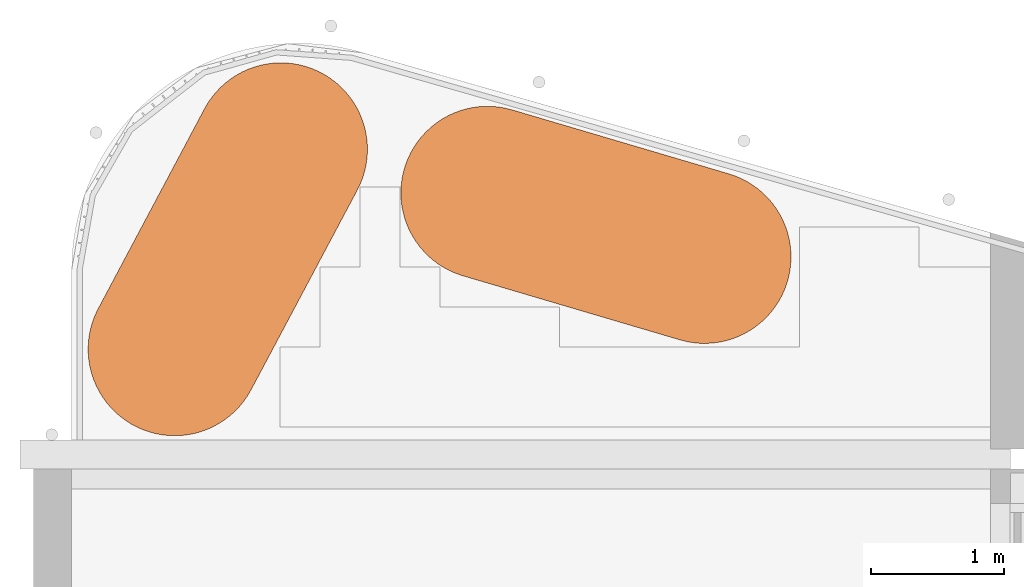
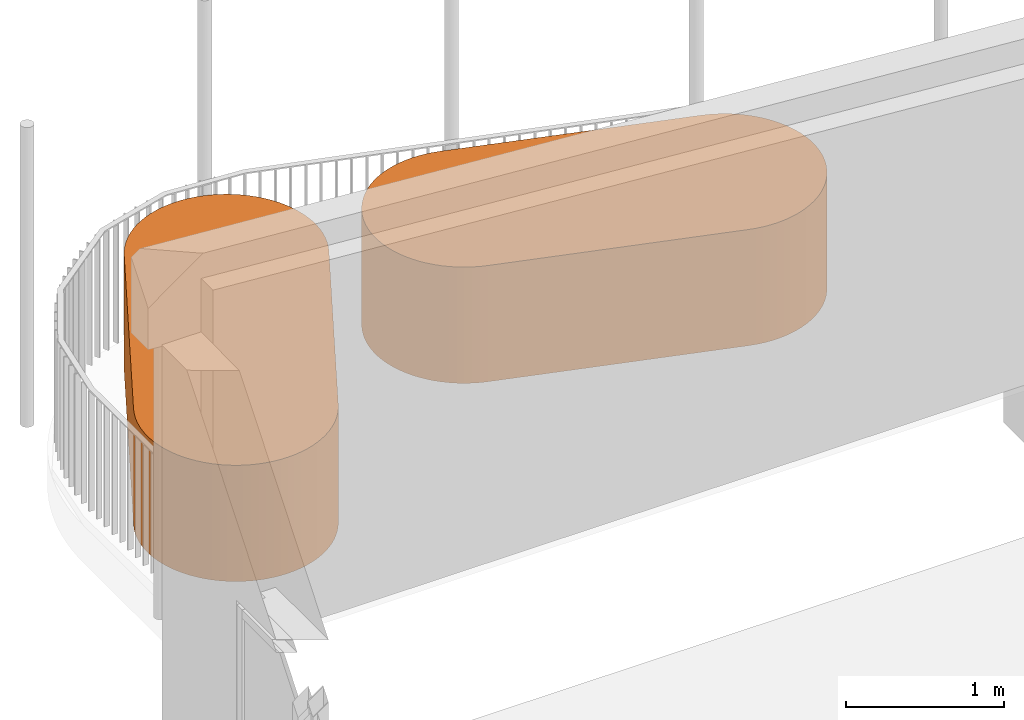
# One storey, part 9 of 9: 2 proxies.
"""IFC2X3 building model written with IfcOpenShell, lengths in millimetres."""

from ifc_helpers import new_model, entity, si_unit, converted_unit, derived_unit, direction, frame, frame_2d, origin, place, context, subcontext, project, spatial, polyline, circle_curve, parameter, trimmed, segment, composite_curve, outline, extrude, source, transform, mapped, material, type_object, type_shapes, element, save


model = new_model("IFC2X3")

# Units and contexts
model_context = context("Model", 3, precision=0.01, world=origin(), true_north=direction((6.12303176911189e-17, 1.0)))
body_context = subcontext(model_context, "Body", "Model", "MODEL_VIEW")
ifc_project = project(units=[si_unit("LENGTHUNIT", "METRE", prefix="MILLI"), si_unit("AREAUNIT", "SQUARE_METRE"), si_unit("VOLUMEUNIT", "CUBIC_METRE"), converted_unit("PLANEANGLEUNIT", "DEGREE", entity("IfcRatioMeasure", 0.0174532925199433), si_unit("PLANEANGLEUNIT", "RADIAN"), dimensions=[0, 0, 0, 0, 0, 0, 0]), si_unit("MASSUNIT", "GRAM", prefix="KILO"), derived_unit("MASSDENSITYUNIT", [(si_unit("MASSUNIT", "GRAM", prefix="KILO"), 1), (si_unit("LENGTHUNIT", "METRE"), -3)]), si_unit("TIMEUNIT", "SECOND"), si_unit("FREQUENCYUNIT", "HERTZ"), si_unit("THERMODYNAMICTEMPERATUREUNIT", "DEGREE_CELSIUS"), derived_unit("THERMALTRANSMITTANCEUNIT", [(si_unit("MASSUNIT", "GRAM", prefix="KILO"), 1), (si_unit("THERMODYNAMICTEMPERATUREUNIT", "KELVIN"), -1), (si_unit("TIMEUNIT", "SECOND"), -3)]), derived_unit("VOLUMETRICFLOWRATEUNIT", [(si_unit("LENGTHUNIT", "METRE"), 3), (si_unit("TIMEUNIT", "SECOND"), -1)]), si_unit("ELECTRICCURRENTUNIT", "AMPERE"), si_unit("ELECTRICVOLTAGEUNIT", "VOLT"), si_unit("POWERUNIT", "WATT"), si_unit("FORCEUNIT", "NEWTON", prefix="KILO"), si_unit("ILLUMINANCEUNIT", "LUX"), si_unit("LUMINOUSFLUXUNIT", "LUMEN"), si_unit("LUMINOUSINTENSITYUNIT", "CANDELA"), derived_unit("USERDEFINED", [(si_unit("MASSUNIT", "GRAM", prefix="KILO"), -1), (si_unit("LENGTHUNIT", "METRE"), -2), (si_unit("TIMEUNIT", "SECOND"), 3), (si_unit("LUMINOUSFLUXUNIT", "LUMEN"), 1)]), derived_unit("LINEARVELOCITYUNIT", [(si_unit("LENGTHUNIT", "METRE"), 1), (si_unit("TIMEUNIT", "SECOND"), -1)]), si_unit("PRESSUREUNIT", "PASCAL"), derived_unit("USERDEFINED", [(si_unit("LENGTHUNIT", "METRE"), -2), (si_unit("MASSUNIT", "GRAM", prefix="KILO"), 1), (si_unit("TIMEUNIT", "SECOND"), -2)])], contexts=[model_context])

# Site, building, storey
site_placement = place(None, origin())
site = spatial("IfcSite", under=ifc_project, at=site_placement, Name="<Kadaster Gemeente>;<Kadaster nummer>;<Kadaster sectie>", CompositionType="ELEMENT")
building_placement = place(site_placement, origin())
building = spatial("IfcBuilding", under=site, at=building_placement, Name="JRCZ Middelburg", CompositionType="ELEMENT")
storey_placement = place(building_placement, frame((0.0, 0.0, 3700.0)))
storey = spatial("IfcBuildingStorey", under=building, at=storey_placement, Name="02 tweede verdieping", CompositionType="ELEMENT", Elevation=3700.0)

# Proxies
ifc_material = material(Name="Default wit")
building_element_proxy_type_1 = type_object("IfcBuildingElementProxyType", Name="waterbak", PredefinedType="NOTDEFINED", material=ifc_material)
shared_shape_1 = source(origin(), body_context, "Body", "SweptSolid", [
    extrude(outline(composite_curve([segment(polyline([(-850.0, -650.0), (850.0, -650.0)]), True, "CONTINUOUS"), segment(trimmed(circle_curve(frame_2d((850.0, 0.0), x_axis=(1.0, 0.0)), 650.0), [parameter(270.0)], [parameter(90.0000000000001)], True, "PARAMETER"), True, "CONTINUOUS"), segment(polyline([(850.0, 650.0), (-850.0, 650.0)]), True, "CONTINUOUS"), segment(trimmed(circle_curve(frame_2d((-850.0, 0.0), x_axis=(-1.0, 0.0)), 650.0), [parameter(270.0)], [parameter(90.0000000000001)], True, "PARAMETER"), True, "CONTINUOUS")], self_intersect=False)), frame((11322.7375463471, 26048.9073021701, 5060.0), z_axis=(0.0, 0.0, 1.0), x_axis=(-0.46947156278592, -0.882947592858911, 0.0)), (0.0, 0.0, 1.0), 900.0),
])
type_shapes(building_element_proxy_type_1, [shared_shape_1])
proxy_1_placement = place(storey_placement, frame((0.0, 0.0, -3700.0)))
element("IfcBuildingElementProxy", 1, at=proxy_1_placement, inside=storey, type_object=building_element_proxy_type_1, material=ifc_material, Name="waterbak2:waterbak", ObjectType="waterbak2:waterbak", context=body_context, shape_type="MappedRepresentation", body=[
    mapped(shared_shape_1, transform((0.0, 0.0, 0.0), scale=1.0)),
])
building_element_proxy_type_2 = type_object("IfcBuildingElementProxyType", Name="waterbak", PredefinedType="NOTDEFINED", material=ifc_material)
shared_shape_2 = source(origin(), body_context, "Body", "SweptSolid", [
    extrude(outline(composite_curve([segment(polyline([(-850.0, -650.0), (850.0, -650.0)]), True, "CONTINUOUS"), segment(trimmed(circle_curve(frame_2d((850.0, 0.0), x_axis=(1.0, 0.0)), 650.0), [parameter(270.0)], [parameter(90.0000000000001)], True, "PARAMETER"), True, "CONTINUOUS"), segment(polyline([(850.0, 650.0), (-850.0, 650.0)]), True, "CONTINUOUS"), segment(trimmed(circle_curve(frame_2d((-850.0, 0.0), x_axis=(-1.0, 0.0)), 650.0), [parameter(270.0)], [parameter(90.0000000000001)], True, "PARAMETER"), True, "CONTINUOUS")], self_intersect=False)), frame((14088.0033678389, 26232.3252567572, 5060.0), z_axis=(0.0, 0.0, 1.0), x_axis=(0.95908105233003, -0.283131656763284, 0.0)), (0.0, 0.0, 1.0), 900.000000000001),
])
type_shapes(building_element_proxy_type_2, [shared_shape_2])
proxy_2_placement = place(storey_placement, frame((0.0, 0.0, -3700.0)))
element("IfcBuildingElementProxy", 2, at=proxy_2_placement, inside=storey, type_object=building_element_proxy_type_2, material=ifc_material, Name="waterbak3:waterbak", ObjectType="waterbak3:waterbak", context=body_context, shape_type="MappedRepresentation", body=[
    mapped(shared_shape_2, transform((0.0, 0.0, 0.0), scale=1.0)),
])

save(model, "model.ifc")
